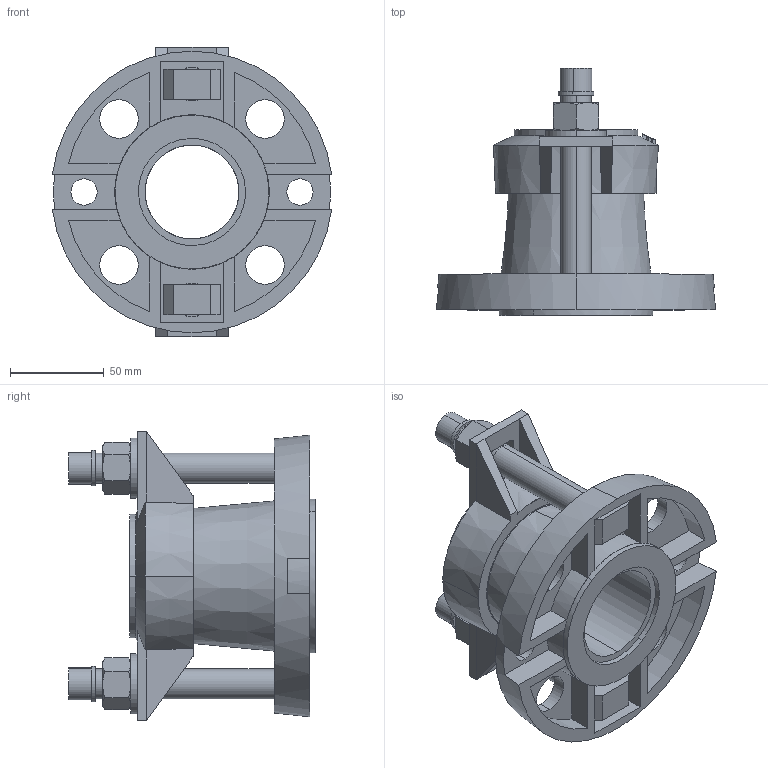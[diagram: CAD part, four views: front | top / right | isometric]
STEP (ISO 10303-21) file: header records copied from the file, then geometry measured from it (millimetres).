
FILE_DESCRIPTION (( 'STEP AP203' ), '1' );
FILE_NAME ('O_623_10_DN040-50mm_X1XXXXX_REV01.step', '2020-04-17T08:20:12', ( '' ), ( '' ), 'SwSTEP 2.0', 'SolidWorks 2019', '' );
FILE_SCHEMA (( 'CONFIG_CONTROL_DESIGN' ));
Length unit declared in the file: millimetre
Products named in the file (1): O_623_10_DN040-50mm_X1XXXXX_REV01
Bounding box: 148.79 x 131.5 x 154 mm (x, y, z)
Volume: 506715.3 mm3; surface area: 117989.7 mm2
Topology: 1 solids, 1 shells, 272 faces, 682 edges, 433 vertices
Faces by surface type: plane 143, cylinder 83, cone 42, torus 2, bspline 2
Entity records: 8546 total; most frequent: CARTESIAN_POINT 2016, ORIENTED_EDGE 1364, DIRECTION 1301, EDGE_CURVE 682, AXIS2_PLACEMENT_3D 494, VERTEX_POINT 433, EDGE_LOOP 319, LINE 313
